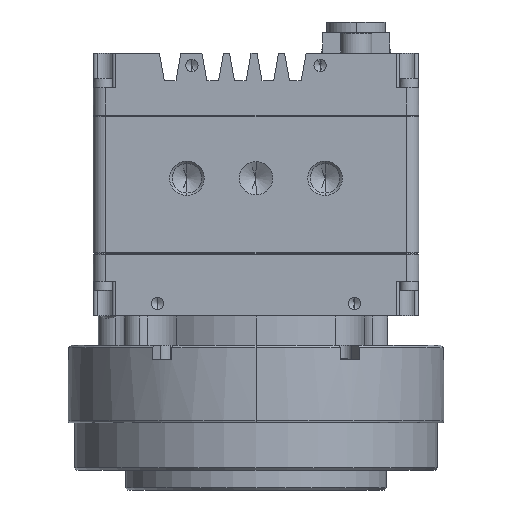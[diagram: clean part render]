
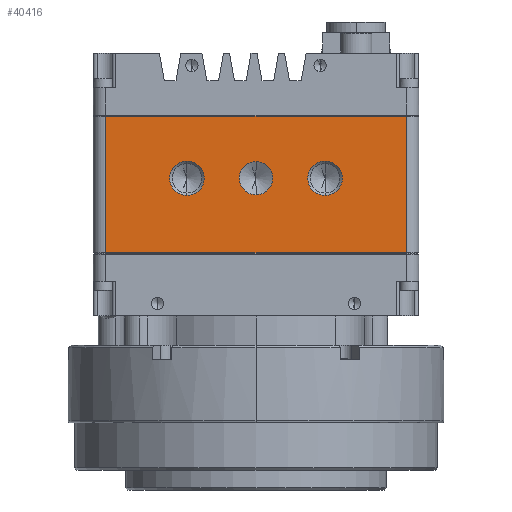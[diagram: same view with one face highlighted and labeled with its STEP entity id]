
A CAD part, front view. The second image highlights one B-rep face of the part: STEP entity #40416.
In plain terms, the highlighted planar face has unit normal (0, -1, 0).
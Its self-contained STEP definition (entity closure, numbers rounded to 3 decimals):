
#164 = LINE ( 'NONE', #23238, #24476 ) ;
#676 = CARTESIAN_POINT ( 'NONE',  ( 0., -26.67, -16.078 ) ) ;
#1276 = VERTEX_POINT ( 'NONE', #12976 ) ;
#1396 = PLANE ( 'NONE',  #48488 ) ;
#2457 = CARTESIAN_POINT ( 'NONE',  ( 14., -26.67, -9.2 ) ) ;
#2720 = AXIS2_PLACEMENT_3D ( 'NONE', #15526, #10795, #3029 ) ;
#2846 = DIRECTION ( 'NONE',  ( 0., -1., 0. ) ) ;
#2931 = AXIS2_PLACEMENT_3D ( 'NONE', #50983, #13190, #42559 ) ;
#3029 = DIRECTION ( 'NONE',  ( 0., 0., -1. ) ) ;
#3457 = ORIENTED_EDGE ( 'NONE', *, *, #11733, .F. ) ;
#4791 = EDGE_CURVE ( 'NONE', #1276, #20586, #5899, .T. ) ;
#4915 = ORIENTED_EDGE ( 'NONE', *, *, #36012, .F. ) ;
#5056 = DIRECTION ( 'NONE',  ( 0., -1., 0. ) ) ;
#5632 = DIRECTION ( 'NONE',  ( 0., 1., 0. ) ) ;
#5899 = LINE ( 'NONE', #22960, #18349 ) ;
#7953 = CARTESIAN_POINT ( 'NONE',  ( 0., -26.67, -12.7 ) ) ;
#8586 = EDGE_CURVE ( 'NONE', #24517, #48353, #14340, .T. ) ;
#8806 = CIRCLE ( 'NONE', #31646, 3.5 ) ;
#9969 = CIRCLE ( 'NONE', #2931, 3.5 ) ;
#10416 = CARTESIAN_POINT ( 'NONE',  ( -14., -26.67, -16.2 ) ) ;
#10795 = DIRECTION ( 'NONE',  ( 0., -1., 0. ) ) ;
#11073 = CARTESIAN_POINT ( 'NONE',  ( 14., -26.67, -16.2 ) ) ;
#11733 = EDGE_CURVE ( 'NONE', #45074, #52042, #8806, .T. ) ;
#12971 = EDGE_CURVE ( 'NONE', #48864, #30788, #42294, .T. ) ;
#12976 = CARTESIAN_POINT ( 'NONE',  ( 30.48, -26.67, -0.127 ) ) ;
#13190 = DIRECTION ( 'NONE',  ( 0., -1., 0. ) ) ;
#14019 = VERTEX_POINT ( 'NONE', #10416 ) ;
#14156 = CARTESIAN_POINT ( 'NONE',  ( -30.48, -26.67, -0.127 ) ) ;
#14340 = LINE ( 'NONE', #15788, #24174 ) ;
#14580 = EDGE_LOOP ( 'NONE', ( #51853, #41214 ) ) ;
#15074 = ORIENTED_EDGE ( 'NONE', *, *, #21678, .F. ) ;
#15526 = CARTESIAN_POINT ( 'NONE',  ( 0., -26.67, -12.7 ) ) ;
#15788 = CARTESIAN_POINT ( 'NONE',  ( -30.48, -26.67, -27.813 ) ) ;
#16548 = CARTESIAN_POINT ( 'NONE',  ( -30.48, -26.67, -27.813 ) ) ;
#16772 = DIRECTION ( 'NONE',  ( 0., 0., -1. ) ) ;
#16879 = AXIS2_PLACEMENT_3D ( 'NONE', #37542, #50052, #16772 ) ;
#16924 = DIRECTION ( 'NONE',  ( 0., 0., -1. ) ) ;
#17735 = CARTESIAN_POINT ( 'NONE',  ( -33.02, -26.67, 0. ) ) ;
#18349 = VECTOR ( 'NONE', #48521, 1000. ) ;
#18682 = CIRCLE ( 'NONE', #42007, 3.5 ) ;
#18800 = CARTESIAN_POINT ( 'NONE',  ( 30.48, -26.67, -27.813 ) ) ;
#20586 = VERTEX_POINT ( 'NONE', #14156 ) ;
#21678 = EDGE_CURVE ( 'NONE', #52042, #45074, #9969, .T. ) ;
#21827 = CARTESIAN_POINT ( 'NONE',  ( 30.48, -26.67, 0. ) ) ;
#22960 = CARTESIAN_POINT ( 'NONE',  ( -30.48, -26.67, -0.127 ) ) ;
#23205 = FACE_OUTER_BOUND ( 'NONE', #46459, .T. ) ;
#23238 = CARTESIAN_POINT ( 'NONE',  ( -30.48, -26.67, 0. ) ) ;
#23796 = CARTESIAN_POINT ( 'NONE',  ( 14., -26.67, -12.7 ) ) ;
#24174 = VECTOR ( 'NONE', #27953, 1000. ) ;
#24410 = CIRCLE ( 'NONE', #16879, 3.5 ) ;
#24414 = LINE ( 'NONE', #21827, #31064 ) ;
#24476 = VECTOR ( 'NONE', #52091, 1000. ) ;
#24517 = VERTEX_POINT ( 'NONE', #18800 ) ;
#24669 = EDGE_CURVE ( 'NONE', #30788, #48864, #42000, .T. ) ;
#26343 = CARTESIAN_POINT ( 'NONE',  ( -14., -26.67, -12.7 ) ) ;
#27006 = ORIENTED_EDGE ( 'NONE', *, *, #4791, .T. ) ;
#27116 = ORIENTED_EDGE ( 'NONE', *, *, #8586, .F. ) ;
#27953 = DIRECTION ( 'NONE',  ( -1., 0., 0. ) ) ;
#28119 = ORIENTED_EDGE ( 'NONE', *, *, #45489, .T. ) ;
#29663 = DIRECTION ( 'NONE',  ( 0., -1., 0. ) ) ;
#30509 = VERTEX_POINT ( 'NONE', #38417 ) ;
#30788 = VERTEX_POINT ( 'NONE', #49124 ) ;
#31064 = VECTOR ( 'NONE', #51220, 1000. ) ;
#31173 = FACE_BOUND ( 'NONE', #33834, .T. ) ;
#31646 = AXIS2_PLACEMENT_3D ( 'NONE', #23796, #2846, #32308 ) ;
#32308 = DIRECTION ( 'NONE',  ( 0., 0., -1. ) ) ;
#32593 = EDGE_CURVE ( 'NONE', #30509, #14019, #24410, .T. ) ;
#33834 = EDGE_LOOP ( 'NONE', ( #3457, #15074 ) ) ;
#36012 = EDGE_CURVE ( 'NONE', #14019, #30509, #18682, .T. ) ;
#37542 = CARTESIAN_POINT ( 'NONE',  ( -14., -26.67, -12.7 ) ) ;
#38417 = CARTESIAN_POINT ( 'NONE',  ( -14., -26.67, -9.2 ) ) ;
#38685 = DIRECTION ( 'NONE',  ( 0., 0., -1. ) ) ;
#40416 = ADVANCED_FACE ( 'NONE', ( #49548, #31173, #45575, #23205 ), #1396, .F. ) ;
#40535 = EDGE_CURVE ( 'NONE', #20586, #48353, #164, .T. ) ;
#40996 = ORIENTED_EDGE ( 'NONE', *, *, #32593, .F. ) ;
#41214 = ORIENTED_EDGE ( 'NONE', *, *, #24669, .F. ) ;
#42000 = CIRCLE ( 'NONE', #2720, 3.378 ) ;
#42007 = AXIS2_PLACEMENT_3D ( 'NONE', #26343, #5056, #38685 ) ;
#42294 = CIRCLE ( 'NONE', #43974, 3.378 ) ;
#42559 = DIRECTION ( 'NONE',  ( 0., 0., -1. ) ) ;
#43974 = AXIS2_PLACEMENT_3D ( 'NONE', #7953, #29663, #16924 ) ;
#44156 = ORIENTED_EDGE ( 'NONE', *, *, #40535, .T. ) ;
#44321 = EDGE_LOOP ( 'NONE', ( #4915, #40996 ) ) ;
#45074 = VERTEX_POINT ( 'NONE', #11073 ) ;
#45489 = EDGE_CURVE ( 'NONE', #24517, #1276, #24414, .T. ) ;
#45575 = FACE_BOUND ( 'NONE', #14580, .T. ) ;
#46459 = EDGE_LOOP ( 'NONE', ( #27006, #44156, #27116, #28119 ) ) ;
#47700 = DIRECTION ( 'NONE',  ( 0., 0., 1. ) ) ;
#48353 = VERTEX_POINT ( 'NONE', #16548 ) ;
#48488 = AXIS2_PLACEMENT_3D ( 'NONE', #17735, #5632, #47700 ) ;
#48521 = DIRECTION ( 'NONE',  ( -1., 0., 0. ) ) ;
#48864 = VERTEX_POINT ( 'NONE', #676 ) ;
#49124 = CARTESIAN_POINT ( 'NONE',  ( 0., -26.67, -9.322 ) ) ;
#49548 = FACE_BOUND ( 'NONE', #44321, .T. ) ;
#50052 = DIRECTION ( 'NONE',  ( 0., -1., 0. ) ) ;
#50983 = CARTESIAN_POINT ( 'NONE',  ( 14., -26.67, -12.7 ) ) ;
#51220 = DIRECTION ( 'NONE',  ( 0., 0., 1. ) ) ;
#51853 = ORIENTED_EDGE ( 'NONE', *, *, #12971, .F. ) ;
#52042 = VERTEX_POINT ( 'NONE', #2457 ) ;
#52091 = DIRECTION ( 'NONE',  ( 0., 0., -1. ) ) ;
